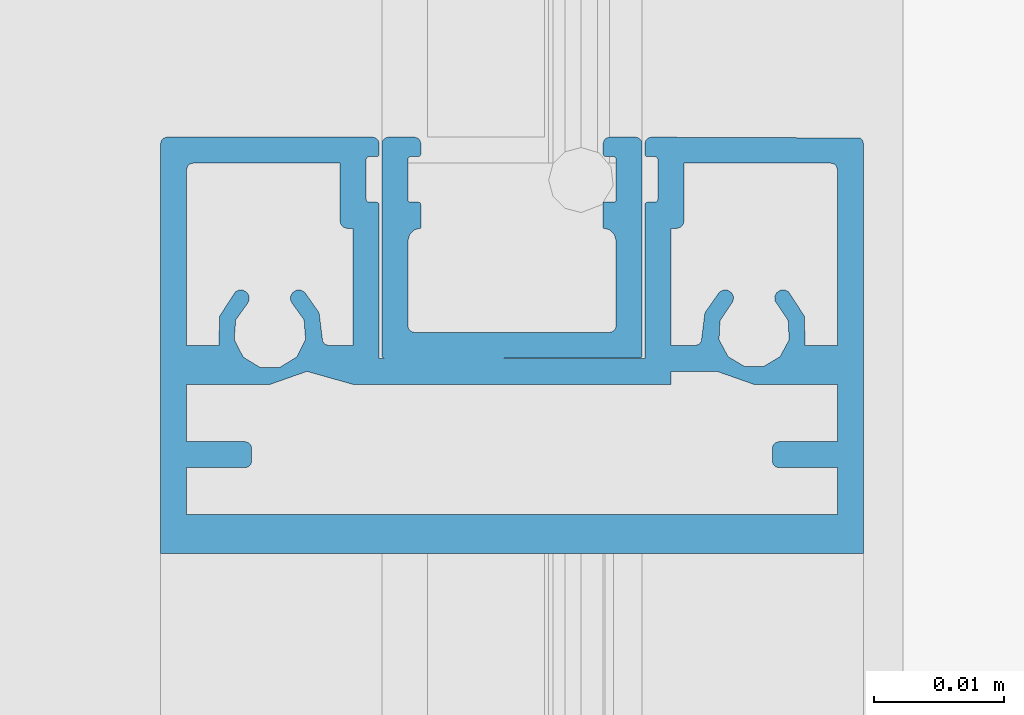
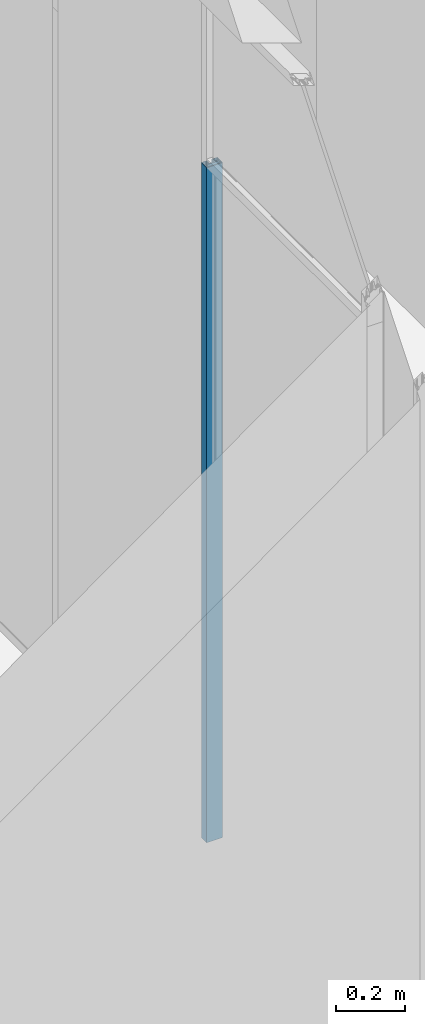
# One storey, part 47 of 387: 1 building element part, 2 elements without a shape of their own.
"""IFC2X3 building model written with IfcOpenShell, lengths in millimetres."""

from ifc_helpers import new_model, entity, si_unit, converted_unit, derived_unit, money_unit, direction, frame, origin_with_axes, place, context, subcontext, project, spatial, faceted_brep, source, transform, mapped, material, type_object, element, aggregate, save


model = new_model("IFC2X3")

# Units and contexts
model_context = context("Model", 3, precision=0.01, world=origin_with_axes(), true_north=direction((0.0, 1.0)))
body_context = subcontext(model_context, "Body", "Model", "MODEL_VIEW")
ifc_project = project(units=[si_unit("LENGTHUNIT", "METRE", prefix="MILLI"), si_unit("AREAUNIT", "SQUARE_METRE"), si_unit("VOLUMEUNIT", "CUBIC_METRE"), converted_unit("PLANEANGLEUNIT", "DEGREE", entity("IfcPlaneAngleMeasure", 0.0174532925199), si_unit("PLANEANGLEUNIT", "RADIAN"), dimensions=[0, 0, 0, 0, 0, 0, 0]), si_unit("SOLIDANGLEUNIT", "STERADIAN"), money_unit("EUR"), converted_unit("TIMEUNIT", "Year", entity("IfcTimeMeasure", 31556926.0), si_unit("TIMEUNIT", "SECOND"), dimensions=[0, 0, 1, 0, 0, 0, 0]), si_unit("MASSUNIT", "GRAM", prefix="KILO"), si_unit("THERMODYNAMICTEMPERATUREUNIT", "DEGREE_CELSIUS"), si_unit("LUMINOUSINTENSITYUNIT", "LUMEN"), si_unit("ENERGYUNIT", "JOULE", prefix="MEGA"), derived_unit("THERMALCONDUCTANCEUNIT", [(si_unit("POWERUNIT", "WATT"), 1), (si_unit("LENGTHUNIT", "METRE"), -1), (si_unit("THERMODYNAMICTEMPERATUREUNIT", "KELVIN"), -1)]), derived_unit("SPECIFICHEATCAPACITYUNIT", [(si_unit("ENERGYUNIT", "JOULE"), 1), (si_unit("MASSUNIT", "GRAM", prefix="KILO"), -1), (si_unit("THERMODYNAMICTEMPERATUREUNIT", "KELVIN"), -1)]), derived_unit("MASSDENSITYUNIT", [(si_unit("MASSUNIT", "GRAM", prefix="KILO"), 1), (si_unit("VOLUMEUNIT", "CUBIC_METRE"), -1)])], contexts=[model_context])

# Site, building, storey
site_placement = place(None, origin_with_axes())
site = spatial("IfcSite", under=ifc_project, at=site_placement, Name="Puškini 31, Narva", CompositionType="ELEMENT")
building_placement = place(site_placement, origin_with_axes())
building = spatial("IfcBuilding", under=site, at=building_placement, Name="Narva Riigigümnaasium", CompositionType="ELEMENT")
storey_placement = place(building_placement, frame((0.0, 0.0, 2640.0), z_axis=(0.0, 0.0, 1.0), x_axis=(1.0, 0.0, 0.0)))
storey = spatial("IfcBuildingStorey", under=building, at=storey_placement, Name="2.korrus +2.64", CompositionType="ELEMENT", Elevation=2640.0)

# Curtain wall, member, building element part
curtain_wall_type = type_object("IfcCurtainWallType", Name="Curtain Wall Type", PredefinedType="NOTDEFINED")
curtain_wall_placement = place(storey_placement, frame((28369.9999994, 164166.500006, -9.21871734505e-06), z_axis=(0.0, 0.0, 1.0), x_axis=(1.0, 0.0, 0.0)))
curtain_wall = element("IfcCurtainWall", 1, at=curtain_wall_placement, inside=storey, type_object=curtain_wall_type, Name="G-SKLF-11")
member_type = type_object("IfcMemberType", Name="32 x 17", PredefinedType="MULLION")
member_placement = place(curtain_wall_placement, frame((8.29558644e-09, 466.5, 0.0), z_axis=(0.0, 0.0, 1.0), x_axis=(0.0, -1.0, 0.0)))
member = element("IfcMember", 2, at=member_placement, type_object=member_type, Name="G-SKLF-11-raam", ObjectType="MULLION")
aggregate(curtain_wall, [member])
ifc_material = material(Name="ET-04_Alumiinium")
shared_shape = source(origin_with_axes(), body_context, "Body", "Brep", [
    faceted_brep([(-31.933012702, 26.75, 0.0), (-32.0, 10.7, 0.0), (-32.0, 10.7, 2400.00000922), (-31.933012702, 26.75, 2400.00000922), (-31.7500000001, 26.9330127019, 0.0), (-31.5, 27.0, 0.0), (0.0, 27.0, 0.0), (0.0, -27.0, 0.0), (-31.5, -27.0, 0.0), (-31.75, -26.9330127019, 0.0), (-31.9330127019, -26.75, 0.0), (-32.0, -26.5, 0.0), (-32.0, -10.7, 0.0), (-31.9330127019, -10.45, 0.0), (-31.75, -10.2669872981, 0.0), (-31.5, -10.2, 0.0), (-30.7, -10.2, 0.0), (-30.6, -10.2267949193, 0.0), (-30.5267949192, -10.3, 0.0), (-30.5, -10.4, 0.0), (-30.5, -11.0, 0.0), (-30.4732050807, -11.1, 0.0), (-30.4, -11.1732050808, 0.0), (-30.3, -11.2, 0.0), (-27.2, -11.2, 0.0), (-27.1, -11.1732050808, 0.0), (-27.0267949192, -11.1, 0.0), (-27.0, -11.0, 0.0), (-27.0, -10.4000000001, 0.0), (-26.9732050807, -10.3000000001, 0.0), (-26.8999999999, -10.2267949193, 0.0), (-26.7999999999, -10.2000000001, 0.0), (-15.0, -10.2, 0.0), (-15.0, -9.80000000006, 0.0), (-15.0, 9.79999999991, 0.0), (-15.0, 10.2, 0.0), (-26.8, 10.2, 0.0), (-26.9, 10.2267949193, 0.0), (-26.9732050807, 10.3, 0.0), (-27.0, 10.4, 0.0), (-27.0, 11.0, 0.0), (-27.0267949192, 11.1, 0.0), (-27.1, 11.1732050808, 0.0), (-27.2, 11.2, 0.0), (-30.3, 11.2, 0.0), (-30.4, 11.1732050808, 0.0), (-30.4732050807, 11.1, 0.0), (-30.5, 11.0, 0.0), (-30.5, 10.4, 0.0), (-30.5267949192, 10.3, 0.0), (-30.6, 10.2267949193, 0.0), (-30.7, 10.2, 0.0), (-31.5, 10.2, 0.0), (-31.75, 10.2669872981, 0.0), (-31.9330127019, 10.45, 0.0), (-30.0, -13.2, 0.0), (-29.9999999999, -24.5, 0.0), (-29.9330127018, -24.75, 0.0), (-29.7499999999, -24.9330127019, 0.0), (-29.4999999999, -25.0, 0.0), (-16.0, -25.0, 0.0), (-16.0, -22.5115214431, 0.0), (-18.2324976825, -22.4735254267, 0.0), (-20.1055788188, -21.2581832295, 0.0), (-20.2508755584, -20.9704117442, 0.0), (-20.2400388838, -20.6482221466, 0.0), (-20.0757343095, -20.3708639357, 0.0), (-19.7983760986, -20.2065593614, 0.0), (-19.476186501, -20.1957226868, 0.0), (-19.1884150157, -20.3410194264, 0.0), (-17.9594363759, -21.2262649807, 0.0), (-16.4491363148, -21.3404661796, 0.0), (-15.101017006, -20.6500876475, 0.0), (-14.3109559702, -19.3578602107, 0.0), (-14.3109559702, -17.8432486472, 0.0), (-15.101017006, -16.5510212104, 0.0), (-16.4491363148, -15.8606426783, 0.0), (-17.9594363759, -15.9748438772, 0.0), (-19.1884150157, -16.8600894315, 0.0), (-19.4768504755, -17.0081043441, 0.0), (-19.8009019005, -16.9984036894, 0.0), (-20.0799669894, -16.8334003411, 0.0), (-20.2446330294, -16.5541360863, 0.0), (-20.2539421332, -16.2300731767, 0.0), (-20.1055788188, -15.9418167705, 0.0), (-18.5025683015, -14.8194517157, 0.0), (-16.5604395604, -14.5796977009, 0.0), (-16.2857576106, -14.5351385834, 0.0), (-16.0774356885, -14.3506455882, 0.0), (-16.0, -14.0833640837, 0.0), (-16.0, -12.2, 0.0), (-25.0, -12.2, 0.0), (-25.0, -12.7, 0.0), (-25.0669872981, -12.95, 0.0), (-25.25, -13.1330127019, 0.0), (-25.5, -13.2, 0.0), (-30.0, 13.2, 0.0), (-25.5, 13.2, 0.0), (-25.25, 13.1330127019, 0.0), (-25.0669872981, 12.95, 0.0), (-25.0, 12.7, 0.0), (-25.0, 12.2, 0.0), (-16.0, 12.2, 0.0), (-16.0, 14.0833640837, 0.0), (-16.0774356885, 14.3506455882, 0.0), (-16.2857576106, 14.5351385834, 0.0), (-16.5604395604, 14.5796977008, 0.0), (-18.5025683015, 14.8194517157, 0.0), (-20.1055788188, 15.9418167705, 0.0), (-20.2591463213, 16.2452813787, 0.0), (-20.2384633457, 16.5847603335, 0.0), (-20.0491908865, 16.8673371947, 0.0), (-19.7431334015, 17.0156698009, 0.0), (-19.4040597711, 16.9891590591, 0.0), (-19.1247754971, 16.7950610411, 0.0), (-17.9010883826, 15.9799828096, 0.0), (-16.4324884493, 15.9094355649, 0.0), (-15.1363081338, 16.6034667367, 0.0), (-14.3808833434, 17.8648533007, 0.0), (-14.3808833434, 19.3351466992, 0.0), (-15.1363081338, 20.5965332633, 0.0), (-16.4324884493, 21.290564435, 0.0), (-17.9010883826, 21.2200171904, 0.0), (-19.1247754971, 20.4049389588, 0.0), (-19.4040367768, 20.2113893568, 0.0), (-19.7428001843, 20.185166, 0.0), (-20.0485211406, 20.3334326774, 0.0), (-20.2376817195, 20.6156853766, 0.0), (-20.2586063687, 20.9548173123, 0.0), (-20.1055788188, 21.2581832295, 0.0), (-18.2324976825, 22.4735254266, 0.0), (-16.0, 22.5115214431, 0.0), (-16.0, 25.0, 0.0), (-29.5, 25.0, 0.0), (-29.75, 24.9330127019, 0.0), (-29.9330127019, 24.75, 0.0), (-30.0, 24.5, 0.0), (-14.0, -15.7539501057, 0.0), (-13.8901098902, -16.0667028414, 0.0), (-13.0, -18.6, 0.0), (-13.0, -25.0, 0.0), (-8.59999999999, -25.0, 0.0), (-8.59999999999, -20.5, 0.0), (-8.53301270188, -20.25, 0.0), (-8.34999999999, -20.0669872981, 0.0), (-8.09999999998, -20.0, 0.0), (-7.1, -20.0000000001, 0.0), (-6.85, -20.0669872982, 0.0), (-6.66698729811, -20.25, 0.0), (-6.6, -20.5, 0.0), (-6.6, -25.0, 0.0), (-3.0, -25.0, 0.0), (-3.0, 25.0, 0.0), (-6.6, 25.0, 0.0), (-6.6, 20.5, 0.0), (-6.6669872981, 20.25, 0.0), (-6.85, 20.0669872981, 0.0), (-7.09999999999, 20.0, 0.0), (-8.09999999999, 20.0, 0.0), (-8.34999999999, 20.0669872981, 0.0), (-8.53301270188, 20.25, 0.0), (-8.59999999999, 20.5, 0.0), (-8.59999999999, 25.0, 0.0), (-13.0, 25.0, 0.0), (-13.0, 18.6, 0.0), (-13.8901098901, 16.0667028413, 0.0), (-14.0, 15.7539501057, 0.0), (-14.0, 12.2, 0.0), (-13.0, 12.2, 0.0), (-13.0, -12.2, 0.0), (-31.9330127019, 10.45, 2400.00000922), (-31.75, 10.2669872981, 2400.00000922), (-31.5, 10.2, 2400.00000922), (-30.7, 10.2, 2400.00000922), (-30.6, 10.2267949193, 2400.00000922), (-30.5267949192, 10.3, 2400.00000922), (-30.5, 10.4, 2400.00000922), (-30.5, 11.0, 2400.00000922), (-30.4732050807, 11.1, 2400.00000922), (-30.4, 11.1732050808, 2400.00000922), (-30.3, 11.2, 2400.00000922), (-27.2, 11.2, 2400.00000922), (-27.1, 11.1732050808, 2400.00000922), (-27.0267949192, 11.1, 2400.00000922), (-27.0, 11.0, 2400.00000922), (-27.0, 10.4, 2400.00000922), (-26.9732050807, 10.3, 2400.00000922), (-26.9, 10.2267949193, 2400.00000922), (-26.8, 10.2, 2400.00000922), (-15.0, 10.2, 2400.00000922), (-15.0, 9.79999999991, 2400.00000922), (-15.0, -9.80000000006, 2400.00000922), (-15.0, -10.2, 2400.00000922), (-26.7999999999, -10.2000000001, 2400.00000922), (-26.8999999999, -10.2267949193, 2400.00000922), (-26.9732050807, -10.3000000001, 2400.00000922), (-27.0, -10.4000000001, 2400.00000922), (-27.0, -11.0, 2400.00000922), (-27.0267949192, -11.1, 2400.00000922), (-27.1, -11.1732050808, 2400.00000922), (-27.2, -11.2, 2400.00000922), (-30.3, -11.2, 2400.00000922), (-30.4, -11.1732050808, 2400.00000922), (-30.4732050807, -11.1, 2400.00000922), (-30.5, -11.0, 2400.00000922), (-30.5, -10.4, 2400.00000922), (-30.5267949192, -10.3, 2400.00000922), (-30.6, -10.2267949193, 2400.00000922), (-30.7, -10.2, 2400.00000922), (-31.5, -10.2, 2400.00000922), (-31.75, -10.2669872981, 2400.00000922), (-31.9330127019, -10.45, 2400.00000922), (-32.0, -10.7, 2400.00000922), (-32.0, -26.5, 2400.00000922), (-31.9330127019, -26.75, 2400.00000922), (-31.75, -26.9330127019, 2400.00000922), (-31.5, -27.0, 2400.00000922), (0.0, -27.0, 2400.00000922), (0.0, 27.0, 2400.00000922), (-31.5, 27.0, 2400.00000922), (-31.7500000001, 26.9330127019, 2400.00000922), (-30.0, -13.2, 2400.00000922), (-25.5, -13.2, 2400.00000922), (-25.25, -13.1330127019, 2400.00000922), (-25.0669872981, -12.95, 2400.00000922), (-25.0, -12.7, 2400.00000922), (-25.0, -12.2, 2400.00000922), (-16.0, -12.2, 2400.00000922), (-16.0, -14.0833640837, 2400.00000922), (-16.0774356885, -14.3506455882, 2400.00000922), (-16.2857576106, -14.5351385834, 2400.00000922), (-16.5604395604, -14.5796977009, 2400.00000922), (-18.5025683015, -14.8194517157, 2400.00000922), (-20.1055788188, -15.9418167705, 2400.00000922), (-20.2539421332, -16.2300731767, 2400.00000922), (-20.2446330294, -16.5541360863, 2400.00000922), (-20.0799669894, -16.8334003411, 2400.00000922), (-19.8009019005, -16.9984036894, 2400.00000922), (-19.4768504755, -17.0081043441, 2400.00000922), (-19.1884150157, -16.8600894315, 2400.00000922), (-17.9594363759, -15.9748438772, 2400.00000922), (-16.4491363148, -15.8606426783, 2400.00000922), (-15.101017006, -16.5510212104, 2400.00000922), (-14.3109559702, -17.8432486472, 2400.00000922), (-14.3109559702, -19.3578602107, 2400.00000922), (-15.101017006, -20.6500876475, 2400.00000922), (-16.4491363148, -21.3404661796, 2400.00000922), (-17.9594363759, -21.2262649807, 2400.00000922), (-19.1884150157, -20.3410194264, 2400.00000922), (-19.476186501, -20.1957226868, 2400.00000922), (-19.7983760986, -20.2065593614, 2400.00000922), (-20.0757343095, -20.3708639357, 2400.00000922), (-20.2400388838, -20.6482221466, 2400.00000922), (-20.2508755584, -20.9704117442, 2400.00000922), (-20.1055788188, -21.2581832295, 2400.00000922), (-18.2324976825, -22.4735254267, 2400.00000922), (-16.0, -22.5115214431, 2400.00000922), (-16.0, -25.0, 2400.00000922), (-29.4999999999, -25.0, 2400.00000922), (-29.7499999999, -24.9330127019, 2400.00000922), (-29.9330127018, -24.75, 2400.00000922), (-29.9999999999, -24.5, 2400.00000922), (-30.0, 13.2, 2400.00000922), (-30.0, 24.5, 2400.00000922), (-29.9330127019, 24.75, 2400.00000922), (-29.75, 24.9330127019, 2400.00000922), (-29.5, 25.0, 2400.00000922), (-16.0, 25.0, 2400.00000922), (-16.0, 22.5115214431, 2400.00000922), (-18.2324976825, 22.4735254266, 2400.00000922), (-20.1055788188, 21.2581832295, 2400.00000922), (-20.2586063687, 20.9548173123, 2400.00000922), (-20.2376817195, 20.6156853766, 2400.00000922), (-20.0485211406, 20.3334326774, 2400.00000922), (-19.7428001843, 20.185166, 2400.00000922), (-19.4040367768, 20.2113893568, 2400.00000922), (-19.1247754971, 20.4049389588, 2400.00000922), (-17.9010883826, 21.2200171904, 2400.00000922), (-16.4324884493, 21.290564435, 2400.00000922), (-15.1363081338, 20.5965332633, 2400.00000922), (-14.3808833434, 19.3351466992, 2400.00000922), (-14.3808833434, 17.8648533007, 2400.00000922), (-15.1363081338, 16.6034667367, 2400.00000922), (-16.4324884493, 15.9094355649, 2400.00000922), (-17.9010883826, 15.9799828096, 2400.00000922), (-19.1247754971, 16.7950610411, 2400.00000922), (-19.4040597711, 16.9891590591, 2400.00000922), (-19.7431334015, 17.0156698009, 2400.00000922), (-20.0491908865, 16.8673371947, 2400.00000922), (-20.2384633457, 16.5847603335, 2400.00000922), (-20.2591463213, 16.2452813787, 2400.00000922), (-20.1055788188, 15.9418167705, 2400.00000922), (-18.5025683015, 14.8194517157, 2400.00000922), (-16.5604395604, 14.5796977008, 2400.00000922), (-16.2857576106, 14.5351385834, 2400.00000922), (-16.0774356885, 14.3506455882, 2400.00000922), (-16.0, 14.0833640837, 2400.00000922), (-16.0, 12.2, 2400.00000922), (-25.0, 12.2, 2400.00000922), (-25.0, 12.7, 2400.00000922), (-25.0669872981, 12.95, 2400.00000922), (-25.25, 13.1330127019, 2400.00000922), (-25.5, 13.2, 2400.00000922), (-14.0, -15.7539501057, 2400.00000922), (-13.0, -12.2, 2400.00000922), (-13.0, 12.2, 2400.00000922), (-14.0, 12.2, 2400.00000922), (-14.0, 15.7539501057, 2400.00000922), (-13.8901098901, 16.0667028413, 2400.00000922), (-13.0, 18.6, 2400.00000922), (-13.0, 25.0, 2400.00000922), (-8.59999999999, 25.0, 2400.00000922), (-8.59999999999, 20.5, 2400.00000922), (-8.53301270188, 20.25, 2400.00000922), (-8.34999999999, 20.0669872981, 2400.00000922), (-8.09999999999, 20.0, 2400.00000922), (-7.09999999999, 20.0, 2400.00000922), (-6.85, 20.0669872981, 2400.00000922), (-6.6669872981, 20.25, 2400.00000922), (-6.6, 20.5, 2400.00000922), (-6.6, 25.0, 2400.00000922), (-3.0, 25.0, 2400.00000922), (-3.0, -25.0, 2400.00000922), (-6.6, -25.0, 2400.00000922), (-6.6, -20.5, 2400.00000922), (-6.66698729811, -20.25, 2400.00000922), (-6.85, -20.0669872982, 2400.00000922), (-7.1, -20.0000000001, 2400.00000922), (-8.09999999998, -20.0, 2400.00000922), (-8.34999999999, -20.0669872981, 2400.00000922), (-8.53301270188, -20.25, 2400.00000922), (-8.59999999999, -20.5, 2400.00000922), (-8.59999999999, -25.0, 2400.00000922), (-13.0, -25.0, 2400.00000922), (-13.0, -18.6, 2400.00000922), (-13.8901098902, -16.0667028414, 2400.00000922)], [[[0, 1, 2, 3]], [[0, 4, 5, 6, 7, 8, 9, 10, 11, 12, 13, 14, 15, 16, 17, 18, 19, 20, 21, 22, 23, 24, 25, 26, 27, 28, 29, 30, 31, 32, 33, 34, 35, 36, 37, 38, 39, 40, 41, 42, 43, 44, 45, 46, 47, 48, 49, 50, 51, 52, 53, 54, 1], [55, 56, 57, 58, 59, 60, 61, 62, 63, 64, 65, 66, 67, 68, 69, 70, 71, 72, 73, 74, 75, 76, 77, 78, 79, 80, 81, 82, 83, 84, 85, 86, 87, 88, 89, 90, 91, 92, 93, 94, 95], [96, 97, 98, 99, 100, 101, 102, 103, 104, 105, 106, 107, 108, 109, 110, 111, 112, 113, 114, 115, 116, 117, 118, 119, 120, 121, 122, 123, 124, 125, 126, 127, 128, 129, 130, 131, 132, 133, 134, 135, 136], [137, 138, 139, 140, 141, 142, 143, 144, 145, 146, 147, 148, 149, 150, 151, 152, 153, 154, 155, 156, 157, 158, 159, 160, 161, 162, 163, 164, 165, 166, 167, 168, 169]], [[1, 54, 170, 2]], [[3, 2, 170, 171, 172, 173, 174, 175, 176, 177, 178, 179, 180, 181, 182, 183, 184, 185, 186, 187, 188, 189, 190, 191, 192, 193, 194, 195, 196, 197, 198, 199, 200, 201, 202, 203, 204, 205, 206, 207, 208, 209, 210, 211, 212, 213, 214, 215, 216, 217, 218, 219, 220], [221, 222, 223, 224, 225, 226, 227, 228, 229, 230, 231, 232, 233, 234, 235, 236, 237, 238, 239, 240, 241, 242, 243, 244, 245, 246, 247, 248, 249, 250, 251, 252, 253, 254, 255, 256, 257, 258, 259, 260, 261], [262, 263, 264, 265, 266, 267, 268, 269, 270, 271, 272, 273, 274, 275, 276, 277, 278, 279, 280, 281, 282, 283, 284, 285, 286, 287, 288, 289, 290, 291, 292, 293, 294, 295, 296, 297, 298, 299, 300, 301, 302], [303, 304, 305, 306, 307, 308, 309, 310, 311, 312, 313, 314, 315, 316, 317, 318, 319, 320, 321, 322, 323, 324, 325, 326, 327, 328, 329, 330, 331, 332, 333, 334, 335]], [[4, 0, 3, 220]], [[5, 4, 220, 219]], [[6, 5, 219, 218]], [[7, 6, 218, 217]], [[8, 7, 217, 216]], [[9, 8, 216, 215]], [[10, 9, 215, 214]], [[11, 10, 214, 213]], [[12, 11, 213, 212]], [[13, 12, 212, 211]], [[14, 13, 211, 210]], [[15, 14, 210, 209]], [[16, 15, 209, 208]], [[17, 16, 208, 207]], [[18, 17, 207, 206]], [[19, 18, 206, 205]], [[20, 19, 205, 204]], [[21, 20, 204, 203]], [[22, 21, 203, 202]], [[23, 22, 202, 201]], [[24, 23, 201, 200]], [[25, 24, 200, 199]], [[26, 25, 199, 198]], [[27, 26, 198, 197]], [[28, 27, 197, 196]], [[29, 28, 196, 195]], [[30, 29, 195, 194]], [[31, 30, 194, 193]], [[32, 31, 193, 192]], [[33, 32, 192, 191]], [[34, 33, 191, 190]], [[35, 34, 190, 189]], [[36, 35, 189, 188]], [[37, 36, 188, 187]], [[38, 37, 187, 186]], [[39, 38, 186, 185]], [[40, 39, 185, 184]], [[41, 40, 184, 183]], [[42, 41, 183, 182]], [[43, 42, 182, 181]], [[44, 43, 181, 180]], [[45, 44, 180, 179]], [[46, 45, 179, 178]], [[47, 46, 178, 177]], [[48, 47, 177, 176]], [[49, 48, 176, 175]], [[50, 49, 175, 174]], [[51, 50, 174, 173]], [[52, 51, 173, 172]], [[53, 52, 172, 171]], [[54, 53, 171, 170]], [[56, 55, 221, 261]], [[57, 56, 261, 260]], [[58, 57, 260, 259]], [[59, 58, 259, 258]], [[60, 59, 258, 257]], [[61, 60, 257, 256]], [[62, 61, 256, 255]], [[63, 62, 255, 254]], [[64, 63, 254, 253]], [[65, 64, 253, 252]], [[66, 65, 252, 251]], [[67, 66, 251, 250]], [[68, 67, 250, 249]], [[69, 68, 249, 248]], [[70, 69, 248, 247]], [[71, 70, 247, 246]], [[72, 71, 246, 245]], [[73, 72, 245, 244]], [[74, 73, 244, 243]], [[75, 74, 243, 242]], [[76, 75, 242, 241]], [[77, 76, 241, 240]], [[78, 77, 240, 239]], [[79, 78, 239, 238]], [[80, 79, 238, 237]], [[81, 80, 237, 236]], [[82, 81, 236, 235]], [[83, 82, 235, 234]], [[84, 83, 234, 233]], [[85, 84, 233, 232]], [[86, 85, 232, 231]], [[87, 86, 231, 230]], [[88, 87, 230, 229]], [[89, 88, 229, 228]], [[90, 89, 228, 227]], [[91, 90, 227, 226]], [[92, 91, 226, 225]], [[93, 92, 225, 224]], [[94, 93, 224, 223]], [[95, 94, 223, 222]], [[55, 95, 222, 221]], [[97, 96, 262, 302]], [[98, 97, 302, 301]], [[99, 98, 301, 300]], [[100, 99, 300, 299]], [[101, 100, 299, 298]], [[102, 101, 298, 297]], [[103, 102, 297, 296]], [[104, 103, 296, 295]], [[105, 104, 295, 294]], [[106, 105, 294, 293]], [[107, 106, 293, 292]], [[108, 107, 292, 291]], [[109, 108, 291, 290]], [[110, 109, 290, 289]], [[111, 110, 289, 288]], [[112, 111, 288, 287]], [[113, 112, 287, 286]], [[114, 113, 286, 285]], [[115, 114, 285, 284]], [[116, 115, 284, 283]], [[117, 116, 283, 282]], [[118, 117, 282, 281]], [[119, 118, 281, 280]], [[120, 119, 280, 279]], [[121, 120, 279, 278]], [[122, 121, 278, 277]], [[123, 122, 277, 276]], [[124, 123, 276, 275]], [[125, 124, 275, 274]], [[126, 125, 274, 273]], [[127, 126, 273, 272]], [[128, 127, 272, 271]], [[129, 128, 271, 270]], [[130, 129, 270, 269]], [[131, 130, 269, 268]], [[132, 131, 268, 267]], [[133, 132, 267, 266]], [[134, 133, 266, 265]], [[135, 134, 265, 264]], [[136, 135, 264, 263]], [[96, 136, 263, 262]], [[138, 137, 303, 335]], [[139, 138, 335, 334]], [[140, 139, 334, 333]], [[141, 140, 333, 332]], [[142, 141, 332, 331]], [[143, 142, 331, 330]], [[144, 143, 330, 329]], [[145, 144, 329, 328]], [[146, 145, 328, 327]], [[147, 146, 327, 326]], [[148, 147, 326, 325]], [[149, 148, 325, 324]], [[150, 149, 324, 323]], [[151, 150, 323, 322]], [[152, 151, 322, 321]], [[153, 152, 321, 320]], [[154, 153, 320, 319]], [[155, 154, 319, 318]], [[156, 155, 318, 317]], [[157, 156, 317, 316]], [[158, 157, 316, 315]], [[159, 158, 315, 314]], [[160, 159, 314, 313]], [[161, 160, 313, 312]], [[162, 161, 312, 311]], [[163, 162, 311, 310]], [[164, 163, 310, 309]], [[165, 164, 309, 308]], [[166, 165, 308, 307]], [[167, 166, 307, 306]], [[168, 167, 306, 305]], [[169, 168, 305, 304]], [[137, 169, 304, 303]]]),
    faceted_brep([(-15.0, -9.80000000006, 0.0), (-15.0267949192, 9.89999999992, 0.0), (-15.0267949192, 9.89999999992, 2400.00000922), (-15.0, -9.80000000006, 2400.00000922), (-15.0267949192, -9.90000000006, 0.0), (-15.1, -9.97320508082, 0.0), (-15.2, -10.0000000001, 0.0), (-31.5, -10.0000000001, 0.0), (-31.75, -9.93301270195, 0.0), (-31.9330127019, -9.75000000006, 0.0), (-32.0, -9.50000000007, 0.0), (-32.0, -7.50000000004, 0.0), (-31.9330127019, -7.25000000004, 0.0), (-31.75, -7.06698729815, 0.0), (-31.5, -7.00000000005, 0.0), (-30.7, -7.00000000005, 0.0), (-30.6, -7.02679491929, 0.0), (-30.5267949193, -7.10000000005, 0.0), (-30.5, -7.20000000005, 0.0), (-30.5, -7.80000000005, 0.0), (-30.4732050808, -7.90000000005, 0.0), (-30.4, -7.97320508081, 0.0), (-30.3, -8.00000000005, 0.0), (-27.2, -8.00000000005, 0.0), (-27.1, -7.97320508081, 0.0), (-27.0267949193, -7.90000000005, 0.0), (-27.0, -7.80000000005, 0.0), (-27.0, -7.20000000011, 0.0), (-26.9732050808, -7.10000000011, 0.0), (-26.9, -7.02679491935, 0.0), (-26.8, -7.0000000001, 0.0), (-25.0092559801, -6.99999999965, 0.0), (-24.8752813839, -7.49999999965, 0.0), (-24.5092559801, -7.86602540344, 0.0), (-24.0092559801, -7.99999999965, 0.0), (-17.5, -7.99999999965, 0.0), (-17.25, -7.93301270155, 0.0), (-17.0669872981, -7.74999999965, 0.0), (-17.0, -7.49999999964, 0.0), (-17.0, 7.4999999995, 0.0), (-17.0669872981, 7.74999999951, 0.0), (-17.25, 7.9330127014, 0.0), (-17.5, 7.99999999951, 0.0), (-24.0092559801, 7.99999999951, 0.0), (-24.5092559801, 7.8660254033, 0.0), (-24.8752813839, 7.49999999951, 0.0), (-25.0092559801, 6.99999999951, 0.0), (-26.8568724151, 6.99999999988, 0.0), (-27.0, 6.99999999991, 0.0), (-27.0, 7.14458302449, 0.0), (-27.0, 7.79999999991, 0.0), (-27.0267949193, 7.89999999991, 0.0), (-27.1, 7.97320508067, 0.0), (-27.2, 7.99999999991, 0.0), (-30.3, 7.99999999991, 0.0), (-30.4, 7.97320508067, 0.0), (-30.4732050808, 7.89999999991, 0.0), (-30.5, 7.7999999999, 0.0), (-30.5, 7.19999999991, 0.0), (-30.5267949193, 7.09999999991, 0.0), (-30.6, 7.02679491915, 0.0), (-30.7, 6.99999999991, 0.0), (-31.5, 6.99999999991, 0.0), (-31.75, 7.06698729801, 0.0), (-31.9330127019, 7.24999999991, 0.0), (-32.0, 7.49999999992, 0.0), (-32.0, 9.49999999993, 0.0), (-31.9330127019, 9.74999999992, 0.0), (-31.75, 9.93301270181, 0.0), (-31.5, 9.99999999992, 0.0), (-15.2, 9.99999999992, 0.0), (-15.1, 9.97320508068, 0.0), (-15.1, 9.97320508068, 2400.00000922), (-15.2, 9.99999999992, 2400.00000922), (-31.5, 9.99999999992, 2400.00000922), (-31.75, 9.93301270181, 2400.00000922), (-31.9330127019, 9.74999999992, 2400.00000922), (-32.0, 9.49999999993, 2400.00000922), (-32.0, 7.49999999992, 2400.00000922), (-31.9330127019, 7.24999999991, 2400.00000922), (-31.75, 7.06698729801, 2400.00000922), (-31.5, 6.99999999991, 2400.00000922), (-30.7, 6.99999999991, 2400.00000922), (-30.6, 7.02679491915, 2400.00000922), (-30.5267949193, 7.09999999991, 2400.00000922), (-30.5, 7.19999999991, 2400.00000922), (-30.5, 7.7999999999, 2400.00000922), (-30.4732050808, 7.89999999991, 2400.00000922), (-30.4, 7.97320508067, 2400.00000922), (-30.3, 7.99999999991, 2400.00000922), (-27.2, 7.99999999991, 2400.00000922), (-27.1, 7.97320508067, 2400.00000922), (-27.0267949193, 7.89999999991, 2400.00000922), (-27.0, 7.79999999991, 2400.00000922), (-27.0, 7.14458302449, 2400.00000922), (-27.0, 6.99999999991, 2400.00000922), (-26.8568724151, 6.99999999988, 2400.00000922), (-25.0092559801, 6.99999999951, 2400.00000922), (-24.8752813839, 7.49999999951, 2400.00000922), (-24.5092559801, 7.8660254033, 2400.00000922), (-24.0092559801, 7.99999999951, 2400.00000922), (-17.5, 7.99999999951, 2400.00000922), (-17.25, 7.9330127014, 2400.00000922), (-17.0669872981, 7.74999999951, 2400.00000922), (-17.0, 7.4999999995, 2400.00000922), (-17.0, -7.49999999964, 2400.00000922), (-17.0669872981, -7.74999999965, 2400.00000922), (-17.25, -7.93301270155, 2400.00000922), (-17.5, -7.99999999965, 2400.00000922), (-24.0092559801, -7.99999999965, 2400.00000922), (-24.5092559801, -7.86602540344, 2400.00000922), (-24.8752813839, -7.49999999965, 2400.00000922), (-25.0092559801, -6.99999999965, 2400.00000922), (-26.8, -7.0000000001, 2400.00000922), (-26.9, -7.02679491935, 2400.00000922), (-26.9732050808, -7.10000000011, 2400.00000922), (-27.0, -7.20000000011, 2400.00000922), (-27.0, -7.80000000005, 2400.00000922), (-27.0267949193, -7.90000000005, 2400.00000922), (-27.1, -7.97320508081, 2400.00000922), (-27.2, -8.00000000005, 2400.00000922), (-30.3, -8.00000000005, 2400.00000922), (-30.4, -7.97320508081, 2400.00000922), (-30.4732050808, -7.90000000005, 2400.00000922), (-30.5, -7.80000000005, 2400.00000922), (-30.5, -7.20000000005, 2400.00000922), (-30.5267949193, -7.10000000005, 2400.00000922), (-30.6, -7.02679491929, 2400.00000922), (-30.7, -7.00000000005, 2400.00000922), (-31.5, -7.00000000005, 2400.00000922), (-31.75, -7.06698729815, 2400.00000922), (-31.9330127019, -7.25000000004, 2400.00000922), (-32.0, -7.50000000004, 2400.00000922), (-32.0, -9.50000000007, 2400.00000922), (-31.9330127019, -9.75000000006, 2400.00000922), (-31.75, -9.93301270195, 2400.00000922), (-31.5, -10.0000000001, 2400.00000922), (-15.2, -10.0000000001, 2400.00000922), (-15.1, -9.97320508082, 2400.00000922), (-15.0267949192, -9.90000000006, 2400.00000922)], [[[0, 1, 2, 3]], [[0, 4, 5, 6, 7, 8, 9, 10, 11, 12, 13, 14, 15, 16, 17, 18, 19, 20, 21, 22, 23, 24, 25, 26, 27, 28, 29, 30, 31, 32, 33, 34, 35, 36, 37, 38, 39, 40, 41, 42, 43, 44, 45, 46, 47, 48, 49, 50, 51, 52, 53, 54, 55, 56, 57, 58, 59, 60, 61, 62, 63, 64, 65, 66, 67, 68, 69, 70, 71, 1]], [[1, 71, 72, 2]], [[3, 2, 72, 73, 74, 75, 76, 77, 78, 79, 80, 81, 82, 83, 84, 85, 86, 87, 88, 89, 90, 91, 92, 93, 94, 95, 96, 97, 98, 99, 100, 101, 102, 103, 104, 105, 106, 107, 108, 109, 110, 111, 112, 113, 114, 115, 116, 117, 118, 119, 120, 121, 122, 123, 124, 125, 126, 127, 128, 129, 130, 131, 132, 133, 134, 135, 136, 137, 138, 139]], [[4, 0, 3, 139]], [[5, 4, 139, 138]], [[6, 5, 138, 137]], [[7, 6, 137, 136]], [[8, 7, 136, 135]], [[9, 8, 135, 134]], [[10, 9, 134, 133]], [[11, 10, 133, 132]], [[12, 11, 132, 131]], [[13, 12, 131, 130]], [[14, 13, 130, 129]], [[15, 14, 129, 128]], [[16, 15, 128, 127]], [[17, 16, 127, 126]], [[18, 17, 126, 125]], [[19, 18, 125, 124]], [[20, 19, 124, 123]], [[21, 20, 123, 122]], [[22, 21, 122, 121]], [[23, 22, 121, 120]], [[24, 23, 120, 119]], [[25, 24, 119, 118]], [[26, 25, 118, 117]], [[27, 26, 117, 116]], [[28, 27, 116, 115]], [[29, 28, 115, 114]], [[30, 29, 114, 113]], [[31, 30, 113, 112]], [[32, 31, 112, 111]], [[33, 32, 111, 110]], [[34, 33, 110, 109]], [[35, 34, 109, 108]], [[36, 35, 108, 107]], [[37, 36, 107, 106]], [[38, 37, 106, 105]], [[39, 38, 105, 104]], [[40, 39, 104, 103]], [[41, 40, 103, 102]], [[42, 41, 102, 101]], [[43, 42, 101, 100]], [[44, 43, 100, 99]], [[45, 44, 99, 98]], [[46, 45, 98, 97]], [[47, 46, 97, 96]], [[48, 47, 96, 95]], [[49, 48, 95, 94]], [[50, 49, 94, 93]], [[51, 50, 93, 92]], [[52, 51, 92, 91]], [[53, 52, 91, 90]], [[54, 53, 90, 89]], [[55, 54, 89, 88]], [[56, 55, 88, 87]], [[57, 56, 87, 86]], [[58, 57, 86, 85]], [[59, 58, 85, 84]], [[60, 59, 84, 83]], [[61, 60, 83, 82]], [[62, 61, 82, 81]], [[63, 62, 81, 80]], [[64, 63, 80, 79]], [[65, 64, 79, 78]], [[66, 65, 78, 77]], [[67, 66, 77, 76]], [[68, 67, 76, 75]], [[69, 68, 75, 74]], [[70, 69, 74, 73]], [[71, 70, 73, 72]]]),
])
building_element_part_placement = place(member_placement, origin_with_axes())
building_element_part = element("IfcBuildingElementPart", 3, at=building_element_part_placement, material=ifc_material, Name="ET-04_Alumiinium", context=body_context, shape_type="MappedRepresentation", body=[
    mapped(shared_shape, transform((0.0, 0.0, 0.0))),
])
aggregate(member, [building_element_part])

save(model, "model.ifc")
